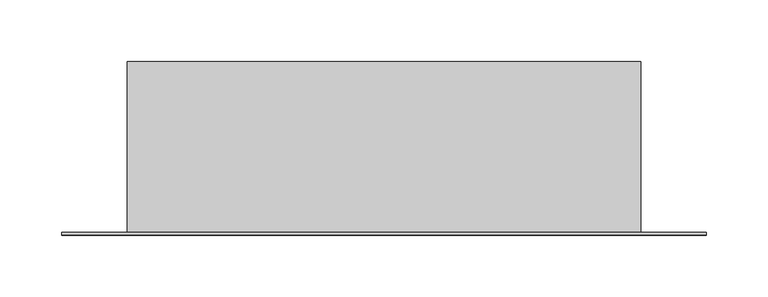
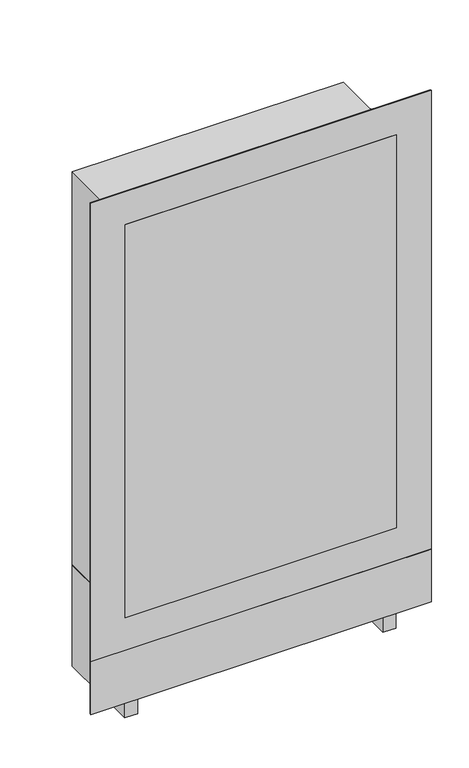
"""IFC4 building model written with IfcOpenShell, lengths in millimetres: valve geometry, PL AT Cabinet under plaster : FT-VK1/8 2-4 manifold loops."""

from ifc_helpers import new_model, si_unit, frame, origin, origin_with_axes, place, context, project, spatial, polyline, outline, extrude, source, transform, mapped, element, save


def valve_313b45f7(model_context):
    return source(origin(), model_context, "Body", "SweptSolid", [
        extrude(outline(polyline([(-187.1040906, 2.0), (-207.1040906, 2.0), (-207.1040906, 140.0), (-187.1040906, 140.0), (-187.1040906, 2.0)])), origin_with_axes(), (0.0, 0.0, 1.0), 162.8959094),
        extrude(outline(polyline([(207.1040906, 2.0), (187.1040906, 2.0), (187.1040906, 140.0), (207.1040906, 140.0), (207.1040906, 2.0)])), origin_with_axes(), (0.0, 0.0, 1.0), 162.8959094),
        extrude(outline(polyline([(260.0, 0.0), (-260.0, 0.0), (-260.0, 2.0), (260.0, 2.0), (260.0, 0.0)])), frame((0.0, 0.0, 25.0), z_axis=(0.0, 0.0, 1.0), x_axis=(1.0, 0.0, 0.0)), (0.0, 0.0, 1.0), 85.0),
        extrude(outline(polyline([(207.1040906, 0.0), (-207.1040906, 0.0), (-207.1040906, 140.0), (207.1040906, 140.0), (207.1040906, 0.0)])), frame((0.0, 0.0, 162.8959094), z_axis=(0.0, 0.0, 1.0), x_axis=(1.0, 0.0, 0.0)), (0.0, 0.0, 1.0), 634.2081812),
        extrude(outline(polyline([(850.0, 260.0), (850.0, -260.0), (110.0, -260.0), (110.0, 260.0), (850.0, 260.0)]), holes=[polyline([(162.8959094, -207.1040906), (797.1040906, -207.1040906), (797.1040906, 207.1040906), (162.8959094, 207.1040906), (162.8959094, -207.1040906)])]), frame((0.0, 0.0, 0.0), z_axis=(0.0, 1.0, 0.0), x_axis=(0.0, 0.0, 1.0)), (0.0, 0.0, 1.0), 2.0),
    ])


if __name__ == "__main__":
    model = new_model("IFC4")
    model_context = context("Model", 3, world=origin())
    ifc_project = project(units=[si_unit("LENGTHUNIT", "METRE", prefix="MILLI")], contexts=[model_context])
    site = spatial("IfcSite", under=ifc_project)
    building = spatial("IfcBuilding", under=site)
    placement = place(None, origin())
    valve_shape = valve_313b45f7(model_context)
    element("IfcValve", 1, ObjectType="PL AT Cabinet under plaster : FT-VK1/8 2-4 manifold loops", at=placement, inside=building, context=model_context, shape_type="MappedRepresentation", body=[
        mapped(valve_shape, transform((0.0, 0.0, 0.0), x_axis=(1.0, 0.0, 0.0), y_axis=(0.0, 1.0, 0.0), z_axis=(0.0, 0.0, 1.0))),
    ])
    save(model, "model.ifc")
